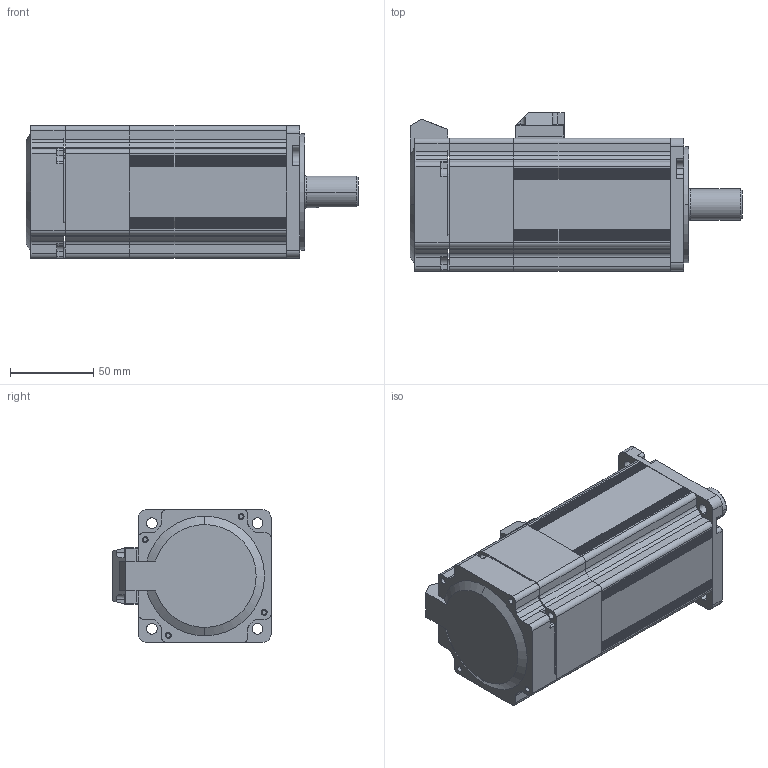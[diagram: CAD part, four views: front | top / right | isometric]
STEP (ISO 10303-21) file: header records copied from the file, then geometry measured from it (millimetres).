
FILE_DESCRIPTION (( 'STEP AP203' ), '1' );
FILE_NAME ('80小惯量低压伺服抱闸装配体.STEP', '2020-05-25T07:18:18', ( '' ), ( '' ), 'SwSTEP 2.0', 'SolidWorks 2016', '' );
FILE_SCHEMA (( 'CONFIG_CONTROL_DESIGN' ));
Length unit declared in the file: millimetre
Products named in the file (1): 80小惯量低压伺服抱闸装配体
Bounding box: 200 x 95.3 x 80 mm (x, y, z)
Surface area: 95682.5 mm2 (no closed solid volume)
Topology: 0 solids, 282 shells, 2510 faces, 9073 edges, 6700 vertices
Faces by surface type: cylinder 1623, plane 785, cone 32, sphere 28, bspline 25, torus 17
Entity records: 99083 total; most frequent: CARTESIAN_POINT 19615, DIRECTION 18240, ORIENTED_EDGE 13979, EDGE_CURVE 9073, AXIS2_PLACEMENT_3D 6775, VERTEX_POINT 6700, LINE 4690, VECTOR 4690
